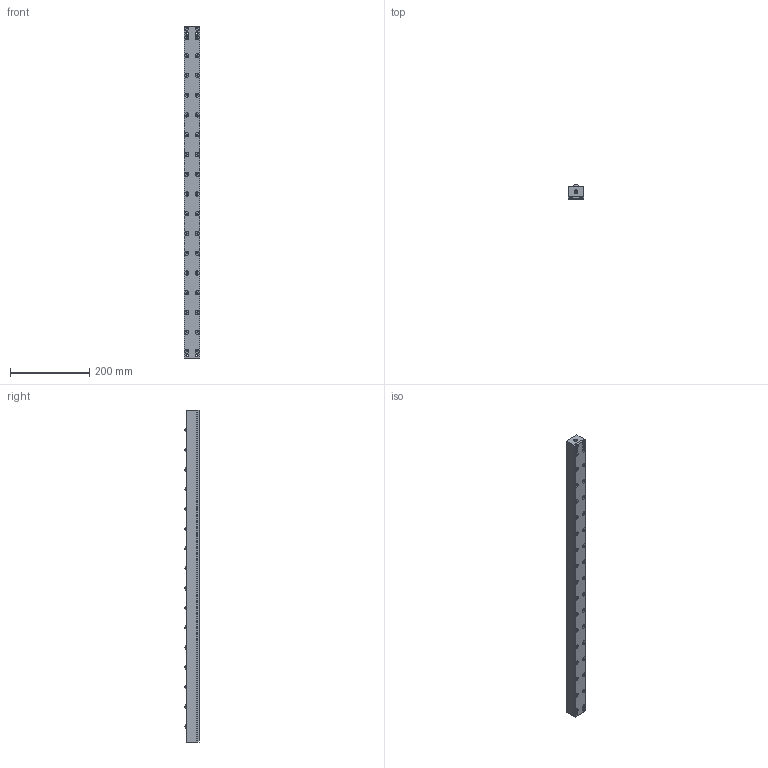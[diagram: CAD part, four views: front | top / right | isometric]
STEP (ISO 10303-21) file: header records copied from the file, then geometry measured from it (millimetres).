
FILE_DESCRIPTION (( 'STEP AP203' ), '1' );
FILE_NAME ('PVL30SL-16-P50.STEP', '2016-01-06T06:08:19', ( '' ), ( '' ), 'SwSTEP 2.0', 'SolidWorks 2013', '' );
FILE_SCHEMA (( 'CONFIG_CONTROL_DESIGN' ));
Length unit declared in the file: millimetre
Products named in the file (1): PVL30SL-16-P50
Bounding box: 38 x 36 x 840 mm (x, y, z)
Volume: 991221.8 mm3; surface area: 273463.1 mm2
Topology: 9 solids, 9 shells, 693 faces, 1580 edges, 1047 vertices
Faces by surface type: plane 379, cylinder 242, cone 40, sphere 32
Entity records: 19709 total; most frequent: DIRECTION 3554, CARTESIAN_POINT 3307, ORIENTED_EDGE 3132, EDGE_CURVE 1566, AXIS2_PLACEMENT_3D 1294, VERTEX_POINT 1047, VECTOR 966, LINE 966
